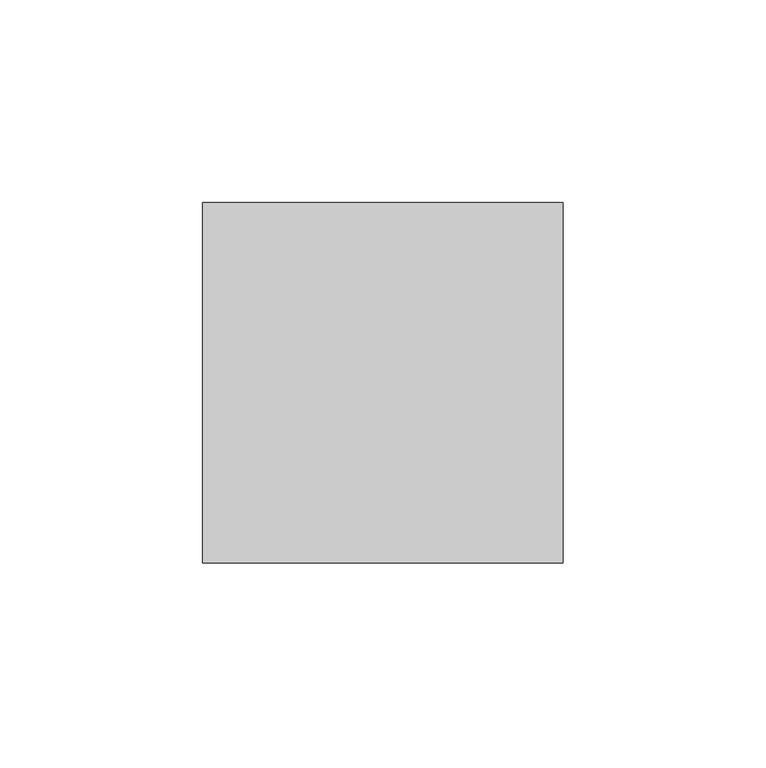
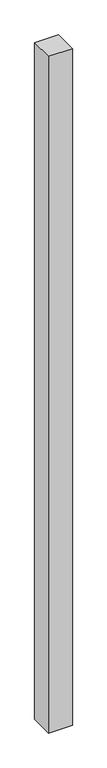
"""IFC4 building model written with IfcOpenShell, lengths in millimetres: column geometry, Trus Joist - TimberStrand LSL - Post Column : TimberStrand® 1.3E – 3 1/2 x 3 1/2”."""

from ifc_helpers import new_model, si_unit, frame, origin, place, context, project, spatial, polyline, outline, extrude, source, transform, mapped, element, save


def column_0aaafce2(model_context):
    return source(origin(), model_context, "Body", "SweptSolid", [
        extrude(outline(polyline([(44.45, 44.45), (44.45, -44.45), (-44.45, -44.45), (-44.45, 44.45), (44.45, 44.45)])), frame((0.0, 0.0, 3117.85), z_axis=(0.0, 0.0, 1.0), x_axis=(1.0, 0.0, 0.0)), (0.0, 0.0, 1.0), 2667.0),
    ])


if __name__ == "__main__":
    model = new_model("IFC4")
    model_context = context("Model", 3, world=origin())
    ifc_project = project(units=[si_unit("LENGTHUNIT", "METRE", prefix="MILLI")], contexts=[model_context])
    site = spatial("IfcSite", under=ifc_project)
    building = spatial("IfcBuilding", under=site)
    placement = place(None, origin())
    column_shape = column_0aaafce2(model_context)
    element("IfcColumn", 1, ObjectType="Trus Joist - TimberStrand LSL - Post Column : TimberStrand® 1.3E – 3 1/2 x 3 1/2”", at=placement, inside=building, context=model_context, shape_type="MappedRepresentation", body=[
        mapped(column_shape, transform((0.0, 0.0, 0.0), x_axis=(1.0, 0.0, 0.0), y_axis=(0.0, 1.0, 0.0), z_axis=(0.0, 0.0, 1.0))),
    ])
    save(model, "model.ifc")
